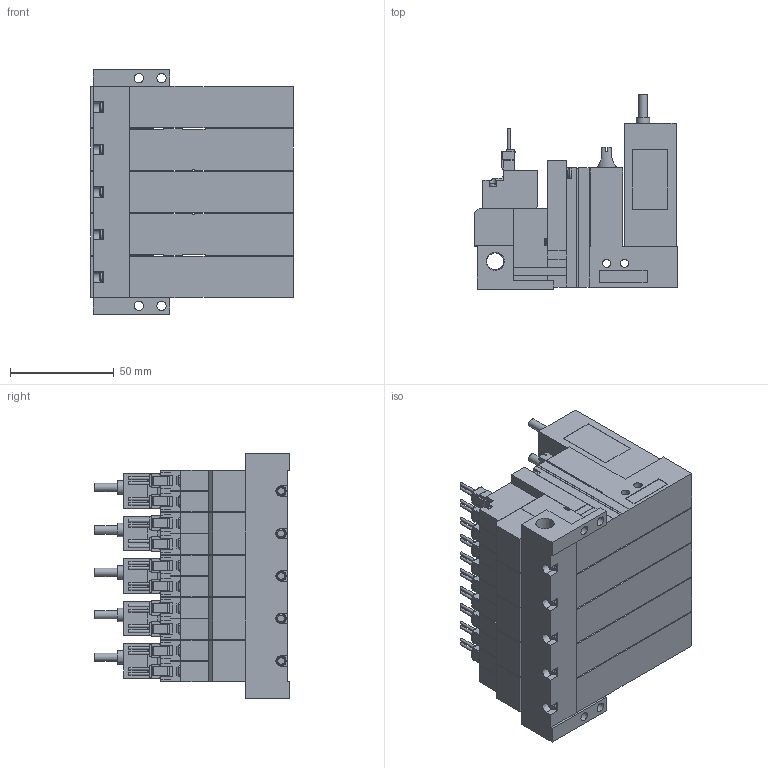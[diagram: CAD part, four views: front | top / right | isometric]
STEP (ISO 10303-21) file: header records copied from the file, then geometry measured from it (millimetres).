
FILE_DESCRIPTION(('STEP AP203'),'1');
FILE_NAME('VG_VGPLC5BLR505.stp','2025-02-19T01:10:12',(' '),(' '),'Spatial InterOp 3D',' ',' ');
FILE_SCHEMA(('CONFIG_CONTROL_DESIGN'));
Length unit declared in the file: millimetre
Products named in the file (5): BMC22M※※※※VG_VGPLC5BLR505; Solenoid valve B; Pressure sensor VGLC; Unit LC; Base MR50R
Assembly tree (16 placements, depth 2):
  BMC22M※※※※VG_VGPLC5BLR505
    Solenoid valve B  x5
    Pressure sensor VGLC  x5
    Unit LC  x5
    Base MR50R
Bounding box: 97.6 x 94 x 118 mm (x, y, z)
Volume: 559534.6 mm3; surface area: 143401.2 mm2
Topology: 16 solids, 16 shells, 1976 faces, 5294 edges, 3490 vertices
Faces by surface type: plane 1674, cylinder 240, cone 37, torus 25
Full cylindrical faces by diameter (mm): 1.4 x20, 2.5 x15, 3 x20, 3.5 x20, 3.6 x5, 4 x30, 4.134 x5, 4.5 x4, 5.2 x5, 6 x5, 6.5 x5, 6.6 x5, 8.279 x1
Entity records: 14701 total; most frequent: CARTESIAN_POINT 2817, DIRECTION 2338, ORIENTED_EDGE 2296, EDGE_CURVE 1148, LINE 930, VECTOR 930, VERTEX_POINT 802, AXIS2_PLACEMENT_3D 704
